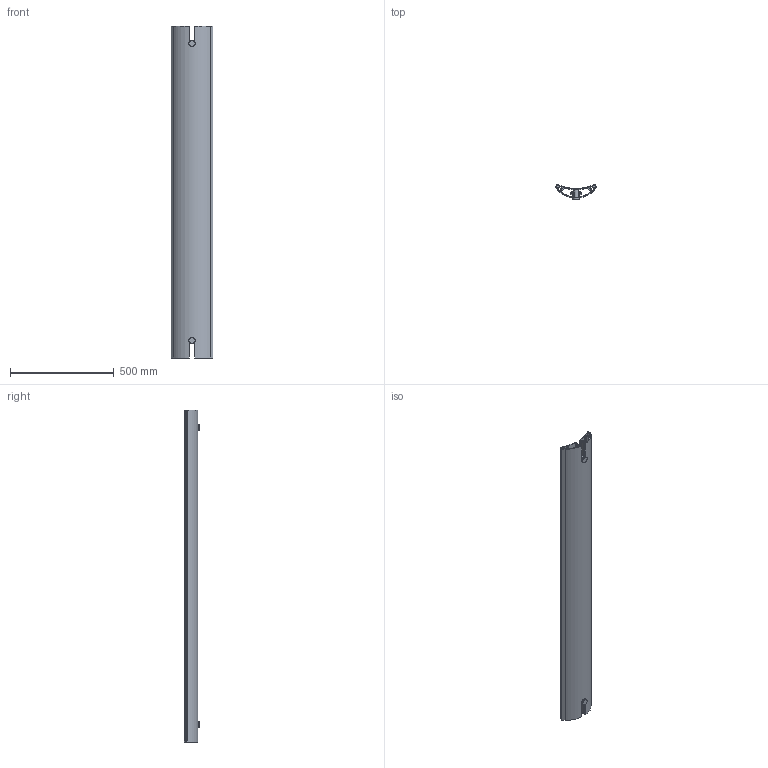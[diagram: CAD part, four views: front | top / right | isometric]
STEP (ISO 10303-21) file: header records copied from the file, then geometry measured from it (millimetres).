
FILE_DESCRIPTION(/* description */ (''),/* implementation_level */ '2;1');
FILE_NAME(/* name */ 'FSTIW1600',/* time_stamp */ '2026-03-04T16:16:10+01:00',/* author */ (''),/* organization */ (''),/* preprocessor_version */ 'ST-DEVELOPER v16.5',/* originating_system */ 'Rhino 7.38',/* authorisation */ '');
FILE_SCHEMA (('CONFIG_CONTROL_DESIGN'));
Length unit declared in the file: millimetre
Products named in the file (1): Document
Bounding box: 199.83 x 72.84 x 1600 mm (x, y, z)
Volume: 4029739.3 mm3; surface area: 2080722.7 mm2
Topology: 5 solids, 5 shells, 204 faces, 582 edges, 384 vertices
Faces by surface type: plane 124, cylinder 68, bspline 12
Entity records: 7708 total; most frequent: CARTESIAN_POINT 3924, ORIENTED_EDGE 1164, EDGE_CURVE 582, VERTEX_POINT 384, B_SPLINE_CURVE_WITH_KNOTS 362, EDGE_LOOP 206, ADVANCED_FACE 204, FACE_OUTER_BOUND 204
